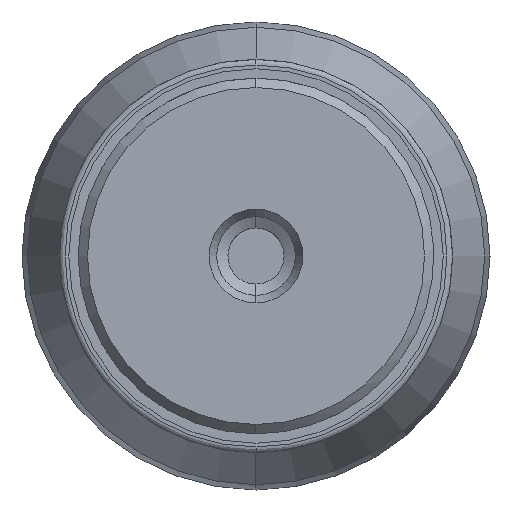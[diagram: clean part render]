
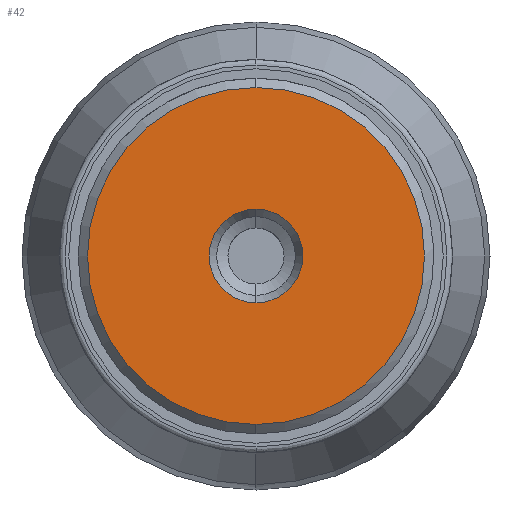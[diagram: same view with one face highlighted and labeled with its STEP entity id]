
A CAD part, left-side view. The second image highlights one B-rep face of the part: STEP entity #42.
In plain terms, the highlighted planar face has unit normal (-1, 0, 0).
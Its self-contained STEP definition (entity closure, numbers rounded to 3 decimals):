
#42=ADVANCED_FACE('',(#112,#113),#111,.T.);
#111=PLANE('',#612);
#112=FACE_OUTER_BOUND('',#613,.T.);
#113=FACE_BOUND('',#614,.T.);
#609=CARTESIAN_POINT('',(-23.,-18.706,-20.7));
#610=DIRECTION('',(-1.,0.,0.));
#611=DIRECTION('',(0.,0.,1.));
#612=AXIS2_PLACEMENT_3D('',#609,#610,#611);
#613=EDGE_LOOP('',(#1132,#1133));
#614=EDGE_LOOP('',(#1134,#1135));
#1132=ORIENTED_EDGE('',*,*,#1350,.T.);
#1133=ORIENTED_EDGE('',*,*,#1351,.T.);
#1134=ORIENTED_EDGE('',*,*,#1352,.F.);
#1135=ORIENTED_EDGE('',*,*,#1353,.F.);
#1350=EDGE_CURVE('',#1495,#1496,#1497,.T.);
#1351=EDGE_CURVE('',#1496,#1495,#1503,.T.);
#1352=EDGE_CURVE('',#1509,#1510,#1511,.T.);
#1353=EDGE_CURVE('',#1510,#1509,#1517,.T.);
#1495=VERTEX_POINT('',#2204);
#1496=VERTEX_POINT('',#2205);
#1497=CIRCLE('',#2209,9.);
#1503=CIRCLE('',#2213,9.);
#1509=VERTEX_POINT('',#2214);
#1510=VERTEX_POINT('',#2215);
#1511=CIRCLE('',#2219,2.5);
#1517=CIRCLE('',#2223,2.5);
#2204=CARTESIAN_POINT('',(-23.,0.,9.));
#2205=CARTESIAN_POINT('',(-23.,0.,-9.));
#2206=CARTESIAN_POINT('',(-23.,0.,0.));
#2207=DIRECTION('',(-1.,0.,0.));
#2208=DIRECTION('',(0.,0.,1.));
#2209=AXIS2_PLACEMENT_3D('',#2206,#2207,#2208);
#2210=CARTESIAN_POINT('',(-23.,0.,0.));
#2211=DIRECTION('',(-1.,0.,0.));
#2212=DIRECTION('',(0.,0.,1.));
#2213=AXIS2_PLACEMENT_3D('',#2210,#2211,#2212);
#2214=CARTESIAN_POINT('',(-23.,0.,-2.5));
#2215=CARTESIAN_POINT('',(-23.,0.,2.5));
#2216=CARTESIAN_POINT('',(-23.,0.,0.));
#2217=DIRECTION('',(-1.,0.,0.));
#2218=DIRECTION('',(0.,0.,1.));
#2219=AXIS2_PLACEMENT_3D('',#2216,#2217,#2218);
#2220=CARTESIAN_POINT('',(-23.,0.,0.));
#2221=DIRECTION('',(-1.,0.,0.));
#2222=DIRECTION('',(0.,0.,1.));
#2223=AXIS2_PLACEMENT_3D('',#2220,#2221,#2222);
